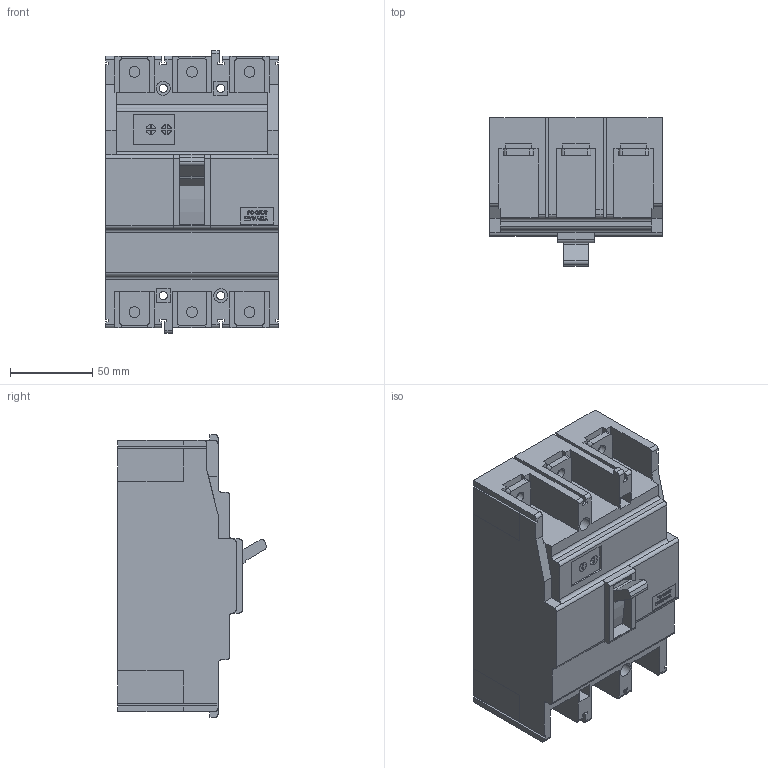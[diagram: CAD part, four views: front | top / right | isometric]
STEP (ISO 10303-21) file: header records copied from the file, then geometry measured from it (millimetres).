
FILE_DESCRIPTION((''),'2;1');
FILE_NAME('S250GJ3250','2012-09-20T',('cmahecha'),(''),'PRO/ENGINEER BY PARAMETRIC TECHNOLOGY CORPORATION, 2010280','PRO/ENGINEER BY PARAMETRIC TECHNOLOGY CORPORATION, 2010280','');
FILE_SCHEMA(('CONFIG_CONTROL_DESIGN'));
Length unit declared in the file: millimetre
Products named in the file (1): S250GJ3250
Bounding box: 105 x 90.39 x 172 mm (x, y, z)
Volume: 1004743.2 mm3; surface area: 97940 mm2
Topology: 1 solids, 1 shells, 712 faces, 2006 edges, 1330 vertices
Faces by surface type: plane 640, cylinder 72
Entity records: 22708 total; most frequent: CARTESIAN_POINT 4048, ORIENTED_EDGE 4012, DIRECTION 3586, EDGE_CURVE 2006, VECTOR 1850, LINE 1850, VERTEX_POINT 1330, AXIS2_PLACEMENT_3D 868
